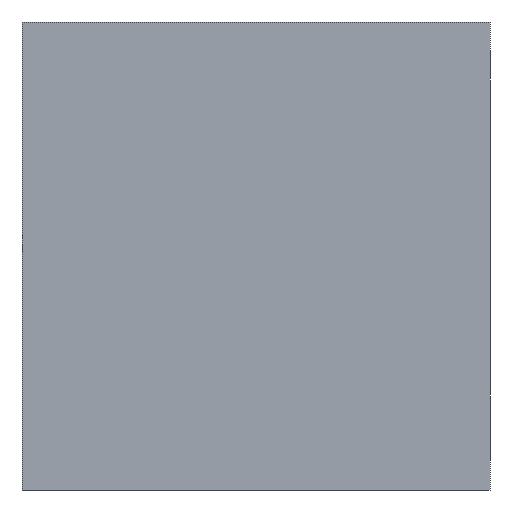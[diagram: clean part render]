
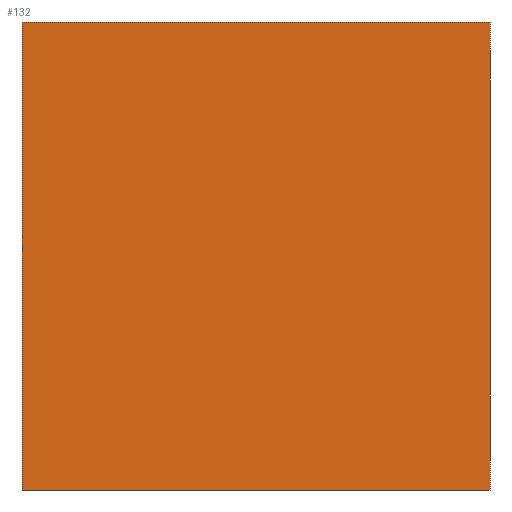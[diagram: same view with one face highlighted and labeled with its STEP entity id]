
A CAD part, left-side view. The second image highlights one B-rep face of the part: STEP entity #132.
In plain terms, the highlighted planar face has unit normal (-1, 0, 0).
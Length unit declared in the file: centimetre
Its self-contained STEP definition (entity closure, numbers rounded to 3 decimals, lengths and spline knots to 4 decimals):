
#13 = EDGE_LOOP ( 'NONE', ( #390, #133, #470, #169 ) ) ;
#25 = EDGE_CURVE ( 'NONE', #475, #441, #247, .T. ) ;
#30 = CARTESIAN_POINT ( 'NONE',  ( 0., 0., 1000. ) ) ;
#42 = DIRECTION ( 'NONE',  ( 1., 0., 0. ) ) ;
#64 = VERTEX_POINT ( 'NONE', #79 ) ;
#79 = CARTESIAN_POINT ( 'NONE',  ( 0., 0., 0. ) ) ;
#102 = DIRECTION ( 'NONE',  ( 0., -1., 0. ) ) ;
#115 = CARTESIAN_POINT ( 'NONE',  ( 0., 1000., 1000. ) ) ;
#116 = VECTOR ( 'NONE', #409, 100. ) ;
#132 = ADVANCED_FACE ( 'NONE', ( #427 ), #383, .F. ) ;
#133 = ORIENTED_EDGE ( 'NONE', *, *, #301, .F. ) ;
#137 = LINE ( 'NONE', #292, #246 ) ;
#169 = ORIENTED_EDGE ( 'NONE', *, *, #25, .T. ) ;
#181 = VECTOR ( 'NONE', #337, 100. ) ;
#196 = CARTESIAN_POINT ( 'NONE',  ( 0., 1000., 1000. ) ) ;
#236 = VERTEX_POINT ( 'NONE', #30 ) ;
#246 = VECTOR ( 'NONE', #445, 100. ) ;
#247 = LINE ( 'NONE', #381, #181 ) ;
#290 = EDGE_CURVE ( 'NONE', #475, #236, #364, .T. ) ;
#292 = CARTESIAN_POINT ( 'NONE',  ( 0., 1000., 0. ) ) ;
#301 = EDGE_CURVE ( 'NONE', #236, #64, #371, .T. ) ;
#312 = VECTOR ( 'NONE', #102, 100. ) ;
#337 = DIRECTION ( 'NONE',  ( 0., 0., -1. ) ) ;
#339 = CARTESIAN_POINT ( 'NONE',  ( 0., 1000., 1000. ) ) ;
#357 = EDGE_CURVE ( 'NONE', #441, #64, #137, .T. ) ;
#364 = LINE ( 'NONE', #339, #312 ) ;
#366 = CARTESIAN_POINT ( 'NONE',  ( 0., 0., 1000. ) ) ;
#371 = LINE ( 'NONE', #366, #116 ) ;
#379 = CARTESIAN_POINT ( 'NONE',  ( 0., 1000., 0. ) ) ;
#381 = CARTESIAN_POINT ( 'NONE',  ( 0., 1000., 1000. ) ) ;
#383 = PLANE ( 'NONE',  #387 ) ;
#387 = AXIS2_PLACEMENT_3D ( 'NONE', #196, #42, #465 ) ;
#390 = ORIENTED_EDGE ( 'NONE', *, *, #357, .T. ) ;
#409 = DIRECTION ( 'NONE',  ( 0., 0., -1. ) ) ;
#427 = FACE_OUTER_BOUND ( 'NONE', #13, .T. ) ;
#441 = VERTEX_POINT ( 'NONE', #379 ) ;
#445 = DIRECTION ( 'NONE',  ( 0., -1., 0. ) ) ;
#465 = DIRECTION ( 'NONE',  ( 0., 0., -1. ) ) ;
#470 = ORIENTED_EDGE ( 'NONE', *, *, #290, .F. ) ;
#475 = VERTEX_POINT ( 'NONE', #115 ) ;
